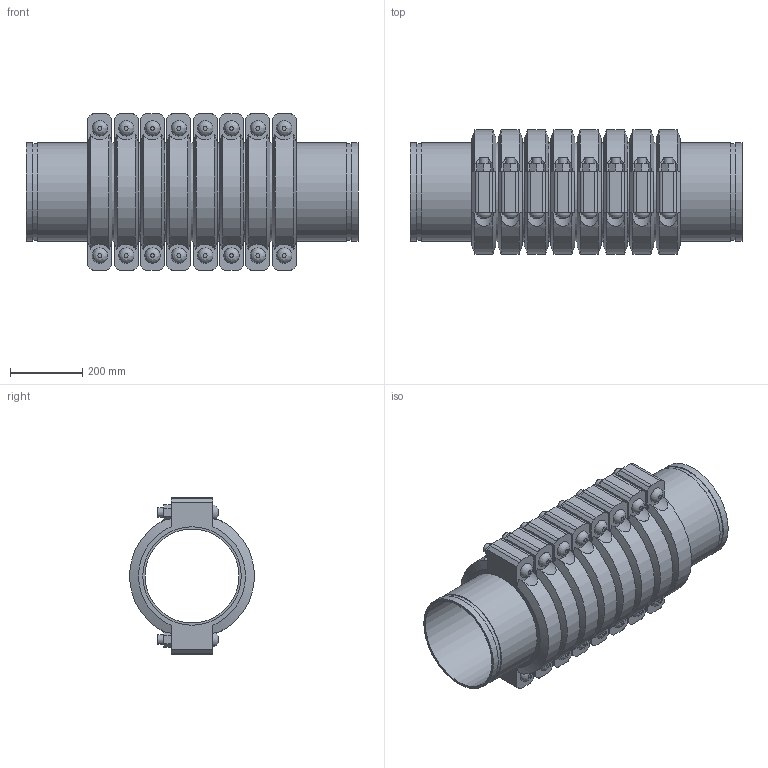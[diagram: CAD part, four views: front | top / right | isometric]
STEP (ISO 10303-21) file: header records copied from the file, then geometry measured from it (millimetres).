
FILE_DESCRIPTION(/* description */ ('VIC SS EXPANSION JOINT 8 COUPLINGS NEUTRAL STYLE 155P (OGS) (POTABLE WATER) ','CAx-IF Rec.Pracs.---Representation and Presentation of Product Manufacturing Information (PMI)---4.0---2014-10-13'),/* implementation_level */ '2;1');
FILE_NAME(/* name */ 'C:\Users\kkamble\AppData\Roaming\Autodesk\ApplicationPlugins\Victaulic.Temp\A279\Victaulic_SS_Expansion Joint_Neutral_8 Couplings_Style 155P (OGS)-Potable Water_8 Coup_Neut_10 (250).stp',/* time_stamp */ '2021-07-16T16:38:58+05:00',/* author */ ('kkamble'),/* organization */ ('Victaulic'),/* preprocessor_version */ 'ST-DEVELOPER v17.2',/* originating_system */ 'Autodesk Inventor 2019',/* authorisation */ '');
FILE_SCHEMA (('AP242_MANAGED_MODEL_BASED_3D_ENGINEERING_MIM_LF { 1 0 10303 442 1 1 4 }'));
Length unit declared in the file: inch
Products named in the file (4): 155P-10.0; Nipple-10.0; Nipple-10.0_1; 077-10.0
Assembly tree (17 placements, depth 2):
  155P-10.0
    Nipple-10.0  x2
    Nipple-10.0_1  x7
    077-10.0  x8
Bounding box: 920.75 x 344.9 x 435.1 mm (x, y, z)
Volume: 27773301.7 mm3; surface area: 3907423.1 mm2
Topology: 17 solids, 33 shells, 596 faces, 1430 edges, 1000 vertices
Faces by surface type: plane 342, cylinder 206, cone 32, bspline 16
Full cylindrical faces by diameter (mm): 25.4 x32, 27.432 x16, 260.35 x9, 264.16 x8, 268.275 x18, 273.05 x43
Entity records: 3121 total; most frequent: CARTESIAN_POINT 681, DIRECTION 489, ORIENTED_EDGE 410, EDGE_CURVE 205, AXIS2_PLACEMENT_3D 200, VERTEX_POINT 146, EDGE_LOOP 111, CIRCLE 96
